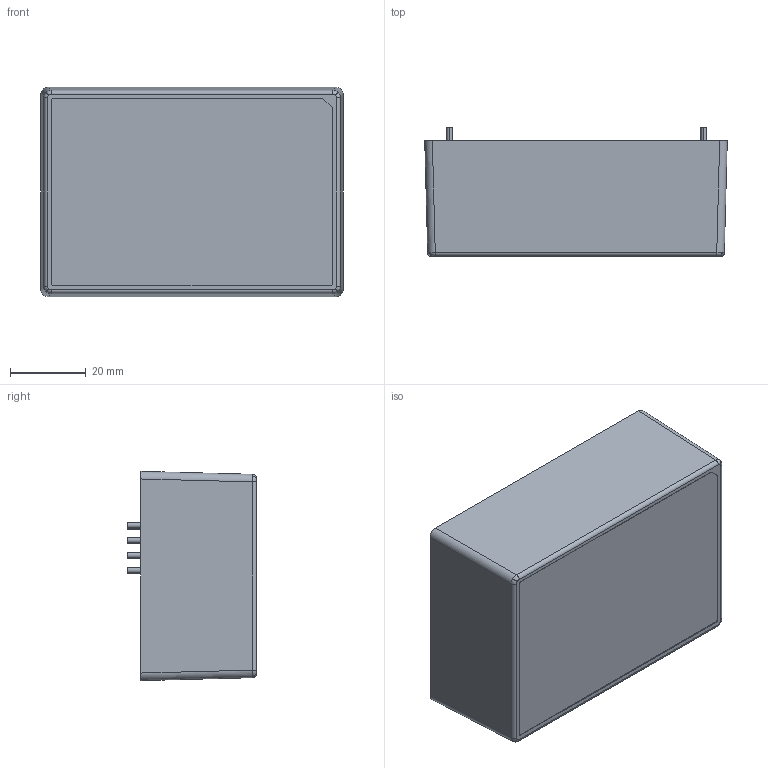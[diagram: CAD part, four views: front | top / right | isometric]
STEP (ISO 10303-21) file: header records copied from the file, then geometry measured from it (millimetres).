
FILE_DESCRIPTION (( 'STEP AP203' ), '1' );
FILE_NAME ('CFM70SXXX-E¦¨«~¹Ï2023.03.01.STEP', '2023-11-24T06:26:06', ( 'cincon' ), ( '' ), 'SwSTEP 2.0', 'SolidWorks 2020', '' );
FILE_SCHEMA (( 'CONFIG_CONTROL_DESIGN' ));
Products named in the file (1): CFM70SXXX-E成品圖2023.03.01
Bounding box: 79.8 x 34 x 55.2 mm (x, y, z)
Surface area: 65276.6 mm2 (no closed solid volume)
Topology: 0 solids, 22 shells, 2520 faces, 7146 edges, 4605 vertices
Faces by surface type: cylinder 1064, plane 851, torus 355, bspline 149, cone 101
Entity records: 101893 total; most frequent: CARTESIAN_POINT 37470, ORIENTED_EDGE 14252, DIRECTION 13121, EDGE_CURVE 7130, AXIS2_PLACEMENT_3D 5096, VERTEX_POINT 4605, VECTOR 2929, LINE 2929
